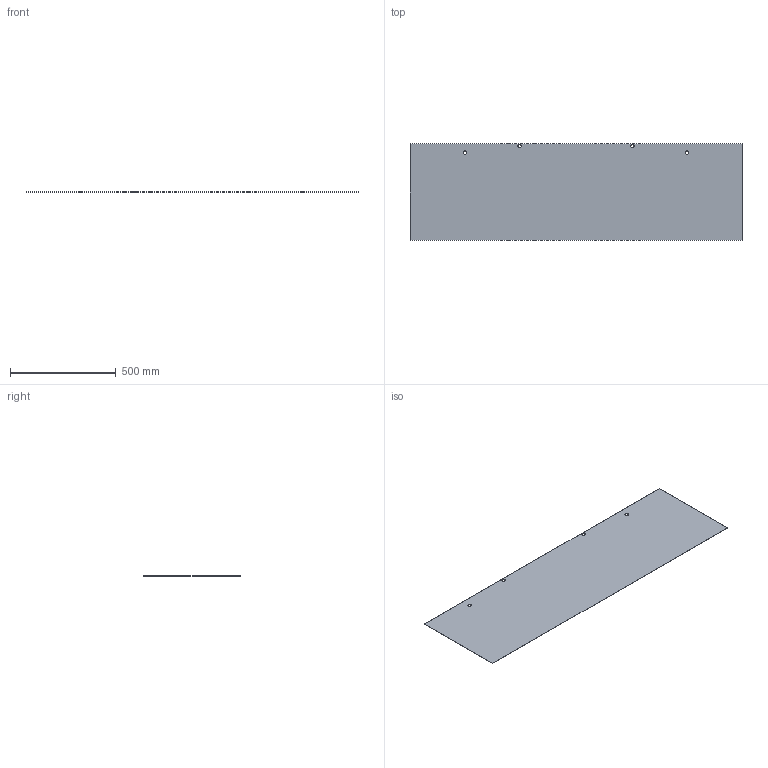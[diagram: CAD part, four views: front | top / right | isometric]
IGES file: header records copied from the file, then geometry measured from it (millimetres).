
Start section: SolidWorks IGES file using NURBS representation for surfaces
Global section: file name: G:\VICCARBE\PRODUCTOS\12-LEG-IN\04-MODELADOS (PLANOS)\SOLIDWORKS\LEG_IN 2011\ENSAMBLAJES\Mesas 3D\IGES\ACCESORIES\VICCARBE_LEFB200.IGS; native system: SolidWorks 2009; preprocessor: SolidWorks 2009; author: RUBEN; date: 111024.104700; units: millimetre
Bounding box: 1570 x 456 x 1 mm (x, y, z)
Surface area: 1434484.5 mm2 (no closed solid volume)
Topology: 0 solids, 0 shells, 14 faces, 312 edges, 312 vertices
Faces by surface type: bspline 14
